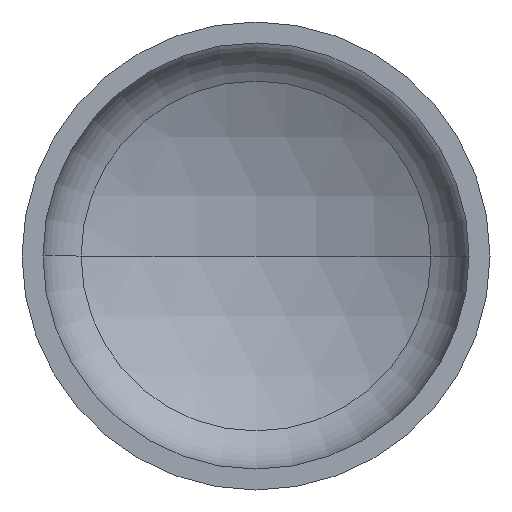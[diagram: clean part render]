
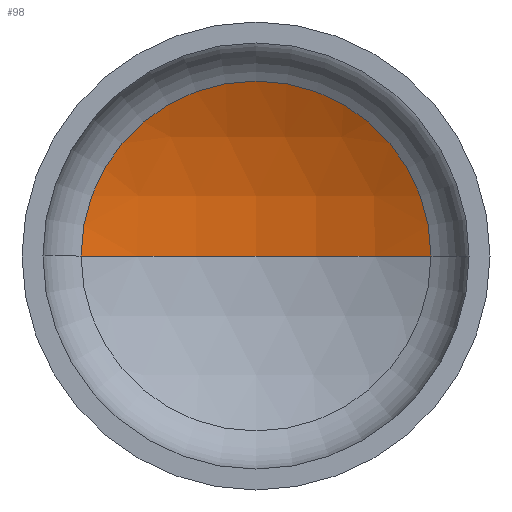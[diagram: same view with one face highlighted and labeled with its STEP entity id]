
A CAD part, front view. The second image highlights one B-rep face of the part: STEP entity #98.
In plain terms, the highlighted spherical face has radius 1360 mm.
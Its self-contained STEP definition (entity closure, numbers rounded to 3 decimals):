
#1 = CARTESIAN_POINT ( 'NONE',  ( 0., -852.525, 0. ) ) ;
#9 = DIRECTION ( 'NONE',  ( -1., 0., 0. ) ) ;
#10 = DIRECTION ( 'NONE',  ( 1., 0., 0. ) ) ;
#15 = DIRECTION ( 'NONE',  ( 0., 0., 1. ) ) ;
#20 = CARTESIAN_POINT ( 'NONE',  ( 0., -852.525, 0. ) ) ;
#24 = AXIS2_PLACEMENT_3D ( 'NONE', #1, #207, #372 ) ;
#25 = DIRECTION ( 'NONE',  ( 0., 0., -1. ) ) ;
#28 = AXIS2_PLACEMENT_3D ( 'NONE', #20, #15, #10 ) ;
#29 = AXIS2_PLACEMENT_3D ( 'NONE', #261, #25, #9 ) ;
#34 = AXIS2_PLACEMENT_3D ( 'NONE', #203, #205, #194 ) ;
#37 = EDGE_LOOP ( 'NONE', ( #140, #86, #283 ) ) ;
#74 = EDGE_CURVE ( 'NONE', #120, #167, #318, .T. ) ;
#77 = EDGE_CURVE ( 'NONE', #129, #120, #264, .T. ) ;
#85 = EDGE_CURVE ( 'NONE', #129, #167, #197, .T. ) ;
#86 = ORIENTED_EDGE ( 'NONE', *, *, #77, .T. ) ;
#94 = SPHERICAL_SURFACE ( 'NONE', #24, 1360. ) ;
#98 = ADVANCED_FACE ( 'NONE', ( #111 ), #94, .F. ) ;
#111 = FACE_OUTER_BOUND ( 'NONE', #37, .T. ) ;
#120 = VERTEX_POINT ( 'NONE', #322 ) ;
#129 = VERTEX_POINT ( 'NONE', #190 ) ;
#140 = ORIENTED_EDGE ( 'NONE', *, *, #85, .F. ) ;
#167 = VERTEX_POINT ( 'NONE', #278 ) ;
#190 = CARTESIAN_POINT ( 'NONE',  ( 0., 507.475, 0. ) ) ;
#194 = DIRECTION ( 'NONE',  ( 1., 0., 0. ) ) ;
#197 = CIRCLE ( 'NONE', #28, 1360. ) ;
#203 = CARTESIAN_POINT ( 'NONE',  ( 0., 349.869, 0. ) ) ;
#205 = DIRECTION ( 'NONE',  ( 0., -1., 0. ) ) ;
#207 = DIRECTION ( 'NONE',  ( 0., 0., -1. ) ) ;
#261 = CARTESIAN_POINT ( 'NONE',  ( 0., -852.525, 0. ) ) ;
#264 = CIRCLE ( 'NONE', #29, 1360. ) ;
#278 = CARTESIAN_POINT ( 'NONE',  ( -635.491, 349.869, 0. ) ) ;
#283 = ORIENTED_EDGE ( 'NONE', *, *, #74, .T. ) ;
#318 = CIRCLE ( 'NONE', #34, 635.491 ) ;
#322 = CARTESIAN_POINT ( 'NONE',  ( 635.491, 349.869, 0. ) ) ;
#372 = DIRECTION ( 'NONE',  ( -1., 0., 0. ) ) ;
